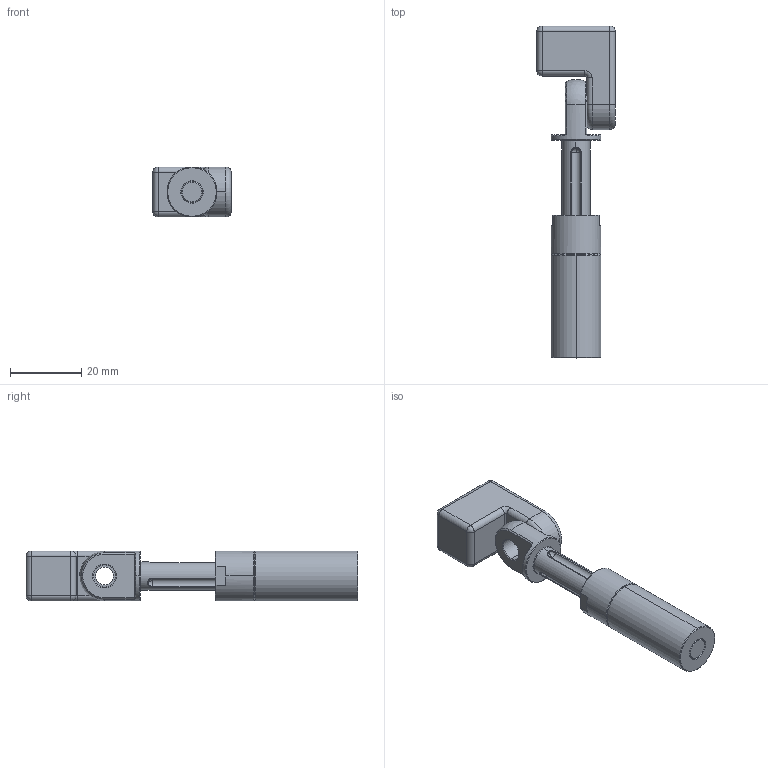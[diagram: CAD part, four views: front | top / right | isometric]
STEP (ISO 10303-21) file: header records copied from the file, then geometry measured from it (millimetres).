
FILE_DESCRIPTION (( 'STEP AP214' ), '1' );
FILE_NAME ('VFE1421-G18.STEP', '2019-11-15T06:57:40', ( '微软用户' ), ( '微软中国' ), 'SwSTEP 2.0', 'SolidWorks 2016', '' );
FILE_SCHEMA (( 'AUTOMOTIVE_DESIGN' ));
Length unit declared in the file: millimetre
Products named in the file (1): VFE1421-G18
Bounding box: 22 x 93 x 14 mm (x, y, z)
Volume: 11619 mm3; surface area: 9058.6 mm2
Topology: 4 solids, 4 shells, 224 faces, 508 edges, 287 vertices
Faces by surface type: cone 76, cylinder 75, plane 37, sphere 20, bspline 10, torus 6
Entity records: 11389 total; most frequent: CARTESIAN_POINT 3921, DIRECTION 1082, ORIENTED_EDGE 992, EDGE_CURVE 496, AXIS2_PLACEMENT_3D 440, VERTEX_POINT 285, EDGE_LOOP 245, UNCERTAINTY_MEASURE_WITH_UNIT 230
